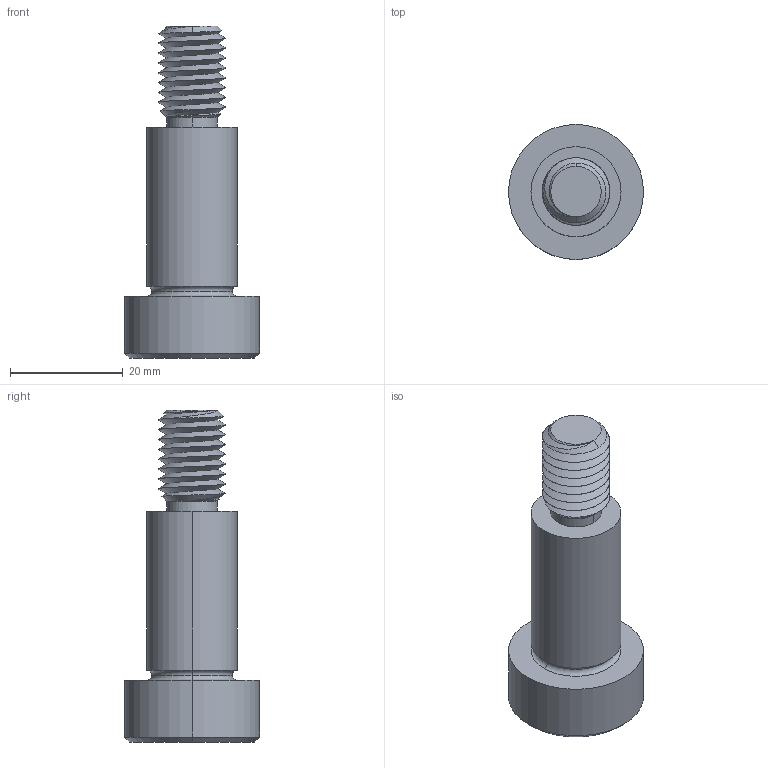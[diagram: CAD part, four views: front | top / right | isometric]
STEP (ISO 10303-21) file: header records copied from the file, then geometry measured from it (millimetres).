
FILE_DESCRIPTION (( 'STEP AP203' ), '1' );
FILE_NAME ('P0130.160-030-B2.step', '2021-11-09T22:13:19', ( '' ), ( '' ), 'SwSTEP 2.0', 'SolidWorks 2019', '' );
FILE_SCHEMA (( 'CONFIG_CONTROL_DESIGN' ));
Length unit declared in the file: millimetre
Products named in the file (1): P0130.160-030-B2
Bounding box: 24 x 24 x 59 mm (x, y, z)
Volume: 11936.1 mm3; surface area: 4551.1 mm2
Topology: 1 solids, 1 shells, 59 faces, 139 edges, 83 vertices
Faces by surface type: cylinder 22, plane 16, cone 15, torus 4, bspline 2
Entity records: 5164 total; most frequent: CARTESIAN_POINT 3839, ORIENTED_EDGE 274, DIRECTION 244, EDGE_CURVE 137, AXIS2_PLACEMENT_3D 98, VERTEX_POINT 83, EDGE_LOOP 62, ADVANCED_FACE 59
